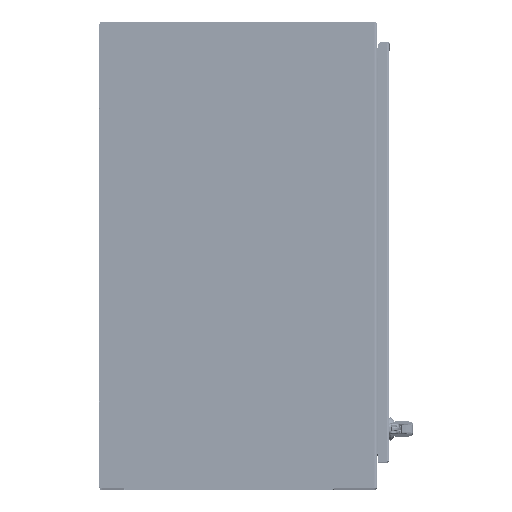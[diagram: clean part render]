
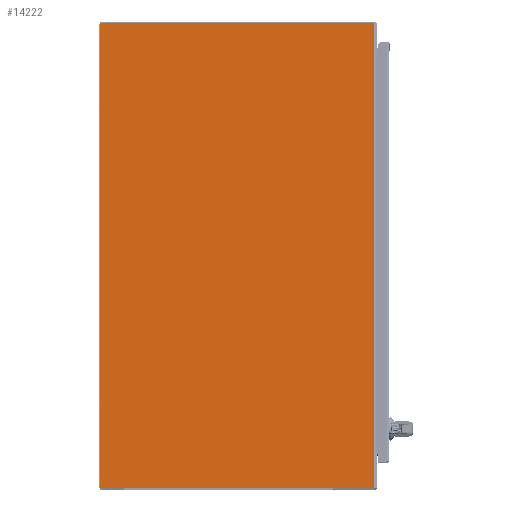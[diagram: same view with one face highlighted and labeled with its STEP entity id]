
A CAD part, top view. The second image highlights one B-rep face of the part: STEP entity #14222.
In plain terms, the highlighted planar face has unit normal (0, 0, 1) as drawn and (0, 1, 0) by its records, which use the part's own axes.
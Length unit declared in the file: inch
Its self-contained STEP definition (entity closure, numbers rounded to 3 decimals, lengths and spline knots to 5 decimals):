
#13437=CARTESIAN_POINT('',(-23.888,0.,-20.013));
#13438=DIRECTION('',(0.,1.,0.));
#13439=DIRECTION('',(0.,0.,-1.));
#13440=AXIS2_PLACEMENT_3D('',#13437,#13438,#13439);
#13445=CARTESIAN_POINT('',(-23.888,0.,20.013));
#13446=DIRECTION('',(0.,1.,0.));
#13447=DIRECTION('',(-1.,0.,0.));
#13448=AXIS2_PLACEMENT_3D('',#13445,#13446,#13447);
#13460=DIRECTION('',(0.,0.,-1.));
#13461=VECTOR('',#13460,40.026);
#13462=CARTESIAN_POINT('',(-23.948,0.,20.013));
#13463=LINE('',#13462,#13461);
#13488=DIRECTION('',(-1.,0.,0.));
#13489=VECTOR('',#13488,23.6415);
#13490=CARTESIAN_POINT('',(-0.2465,0.,20.073));
#13491=LINE('',#13490,#13489);
#13531=DIRECTION('',(0.,0.,1.));
#13532=VECTOR('',#13531,40.146);
#13533=CARTESIAN_POINT('',(-0.2465,0.,-20.073));
#13534=LINE('',#13533,#13532);
#13639=DIRECTION('',(-1.,0.,0.));
#13640=VECTOR('',#13639,23.6415);
#13641=CARTESIAN_POINT('',(-0.2465,0.,-20.073));
#13642=LINE('',#13641,#13640);
#14107=CARTESIAN_POINT('',(-0.2465,0.,20.073));
#14108=VERTEX_POINT('',#14107);
#14109=CARTESIAN_POINT('',(-0.2465,0.,-20.073));
#14110=VERTEX_POINT('',#14109);
#14135=CARTESIAN_POINT('',(-23.888,0.,-20.073));
#14136=CARTESIAN_POINT('',(-23.948,0.,-20.013));
#14137=VERTEX_POINT('',#14135);
#14138=VERTEX_POINT('',#14136);
#14143=CARTESIAN_POINT('',(-23.948,0.,20.013));
#14144=CARTESIAN_POINT('',(-23.888,0.,20.073));
#14145=VERTEX_POINT('',#14143);
#14146=VERTEX_POINT('',#14144);
#14203=CARTESIAN_POINT('',(0.,0.,20.073));
#14204=DIRECTION('',(0.,1.,0.));
#14205=DIRECTION('',(-1.,0.,0.));
#14206=AXIS2_PLACEMENT_3D('',#14203,#14204,#14205);
#14207=PLANE('',#14206);
#14209=ORIENTED_EDGE('',*,*,#14208,.F.);
#14211=ORIENTED_EDGE('',*,*,#14210,.F.);
#14213=ORIENTED_EDGE('',*,*,#14212,.T.);
#14215=ORIENTED_EDGE('',*,*,#14214,.T.);
#14217=ORIENTED_EDGE('',*,*,#14216,.F.);
#14219=ORIENTED_EDGE('',*,*,#14218,.T.);
#14220=EDGE_LOOP('',(#14209,#14211,#14213,#14215,#14217,#14219));
#14221=FACE_OUTER_BOUND('',#14220,.F.);
#13441=CIRCLE('',#13440,0.06);
#13449=CIRCLE('',#13448,0.06);
#14208=EDGE_CURVE('',#14137,#14138,#13441,.T.);
#14210=EDGE_CURVE('',#14110,#14137,#13642,.T.);
#14212=EDGE_CURVE('',#14110,#14108,#13534,.T.);
#14214=EDGE_CURVE('',#14108,#14146,#13491,.T.);
#14216=EDGE_CURVE('',#14145,#14146,#13449,.T.);
#14218=EDGE_CURVE('',#14145,#14138,#13463,.T.);
#14222=ADVANCED_FACE('',(#14221),#14207,.T.);
